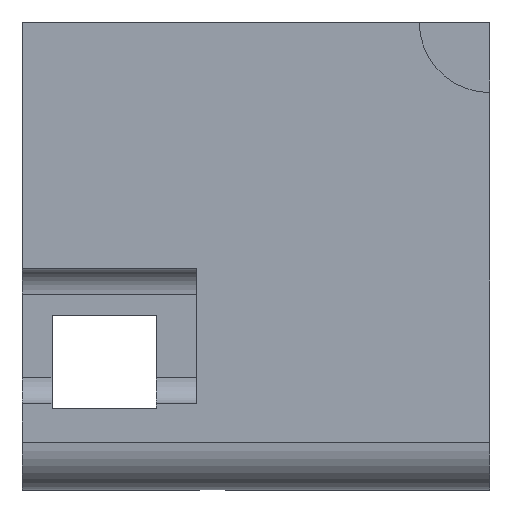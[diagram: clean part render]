
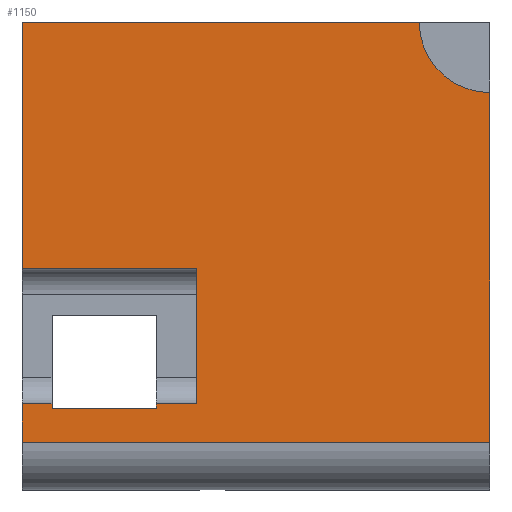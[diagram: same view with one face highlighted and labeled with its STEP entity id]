
A CAD part, top view. The second image highlights one B-rep face of the part: STEP entity #1150.
In plain terms, the highlighted planar face has unit normal (0, 0, 1).
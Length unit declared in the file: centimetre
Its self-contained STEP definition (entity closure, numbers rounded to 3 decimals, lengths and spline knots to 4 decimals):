
#6 = EDGE_CURVE ( 'NONE', #560, #8, #1548, .T. ) ;
#8 = VERTEX_POINT ( 'NONE', #27 ) ;
#10 = DIRECTION ( 'NONE',  ( 0., -1., 0. ) ) ;
#27 = CARTESIAN_POINT ( 'NONE',  ( 372.7676, 183.8458, 1000. ) ) ;
#28 = LINE ( 'NONE', #1264, #58 ) ;
#58 = VECTOR ( 'NONE', #1162, 100. ) ;
#67 = CARTESIAN_POINT ( 'NONE',  ( 0., 1000., 1000. ) ) ;
#85 = VECTOR ( 'NONE', #341, 100. ) ;
#124 = CARTESIAN_POINT ( 'NONE',  ( 0., 1000., 1000. ) ) ;
#244 = DIRECTION ( 'NONE',  ( 1., 0., 0. ) ) ;
#245 = CARTESIAN_POINT ( 'NONE',  ( 63.8506, 183.8458, 1000. ) ) ;
#276 = CARTESIAN_POINT ( 'NONE',  ( 287.1193, 173.8294, 1000. ) ) ;
#296 = CARTESIAN_POINT ( 'NONE',  ( 849.0896, 1000., 1000. ) ) ;
#324 = LINE ( 'NONE', #816, #996 ) ;
#327 = DIRECTION ( 'NONE',  ( 1., 0., 0. ) ) ;
#341 = DIRECTION ( 'NONE',  ( -1., 0., 0. ) ) ;
#348 = AXIS2_PLACEMENT_3D ( 'NONE', #454, #808, #327 ) ;
#355 = FACE_OUTER_BOUND ( 'NONE', #1486, .T. ) ;
#394 = CARTESIAN_POINT ( 'NONE',  ( 1000., 1000., 1000. ) ) ;
#398 = LINE ( 'NONE', #907, #723 ) ;
#401 = VECTOR ( 'NONE', #1502, 100. ) ;
#445 = CARTESIAN_POINT ( 'NONE',  ( 1000., 101.1814, 1000. ) ) ;
#454 = CARTESIAN_POINT ( 'NONE',  ( 1000., 1000., 1000. ) ) ;
#455 = ORIENTED_EDGE ( 'NONE', *, *, #665, .F. ) ;
#477 = CARTESIAN_POINT ( 'NONE',  ( 0., 0., 1000. ) ) ;
#479 = EDGE_CURVE ( 'NONE', #699, #1180, #1096, .T. ) ;
#506 = VECTOR ( 'NONE', #10, 100. ) ;
#531 = DIRECTION ( 'NONE',  ( 0., 1., 0. ) ) ;
#553 = VERTEX_POINT ( 'NONE', #1247 ) ;
#560 = VERTEX_POINT ( 'NONE', #1384 ) ;
#600 = ORIENTED_EDGE ( 'NONE', *, *, #703, .F. ) ;
#619 = DIRECTION ( 'NONE',  ( 0., 0., 1. ) ) ;
#651 = EDGE_CURVE ( 'NONE', #1169, #1180, #1034, .T. ) ;
#663 = EDGE_CURVE ( 'NONE', #982, #1338, #1536, .T. ) ;
#665 = EDGE_CURVE ( 'NONE', #553, #1233, #28, .T. ) ;
#668 = CARTESIAN_POINT ( 'NONE',  ( 1000., 101.1814, 1000. ) ) ;
#683 = EDGE_CURVE ( 'NONE', #8, #699, #1527, .T. ) ;
#699 = VERTEX_POINT ( 'NONE', #1541 ) ;
#703 = EDGE_CURVE ( 'NONE', #1233, #560, #398, .T. ) ;
#704 = ORIENTED_EDGE ( 'NONE', *, *, #1121, .F. ) ;
#723 = VECTOR ( 'NONE', #1414, 100. ) ;
#728 = EDGE_CURVE ( 'NONE', #1561, #1170, #908, .T. ) ;
#763 = PLANE ( 'NONE',  #1033 ) ;
#780 = DIRECTION ( 'NONE',  ( 1., 0., 0. ) ) ;
#808 = DIRECTION ( 'NONE',  ( 0., 0., 1. ) ) ;
#815 = EDGE_CURVE ( 'NONE', #982, #1001, #1345, .T. ) ;
#816 = CARTESIAN_POINT ( 'NONE',  ( 0., 1000., 1000. ) ) ;
#855 = LINE ( 'NONE', #1112, #401 ) ;
#907 = CARTESIAN_POINT ( 'NONE',  ( 287.1193, 173.8294, 1000. ) ) ;
#908 = CIRCLE ( 'NONE', #348, 150.9104 ) ;
#938 = ORIENTED_EDGE ( 'NONE', *, *, #683, .F. ) ;
#946 = CARTESIAN_POINT ( 'NONE',  ( 372.7676, 183.8458, 1000. ) ) ;
#982 = VERTEX_POINT ( 'NONE', #1078 ) ;
#996 = VECTOR ( 'NONE', #1464, 100. ) ;
#1001 = VERTEX_POINT ( 'NONE', #1048 ) ;
#1008 = LINE ( 'NONE', #394, #1369 ) ;
#1033 = AXIS2_PLACEMENT_3D ( 'NONE', #477, #619, #1510 ) ;
#1034 = LINE ( 'NONE', #1390, #506 ) ;
#1048 = CARTESIAN_POINT ( 'NONE',  ( 0., 101.1814, 1000. ) ) ;
#1052 = EDGE_CURVE ( 'NONE', #1001, #1449, #1195, .T. ) ;
#1066 = VECTOR ( 'NONE', #1474, 100. ) ;
#1078 = CARTESIAN_POINT ( 'NONE',  ( 0., 183.8458, 1000. ) ) ;
#1096 = LINE ( 'NONE', #1625, #85 ) ;
#1108 = ORIENTED_EDGE ( 'NONE', *, *, #1551, .T. ) ;
#1112 = CARTESIAN_POINT ( 'NONE',  ( 63.8506, 173.8294, 1000. ) ) ;
#1121 = EDGE_CURVE ( 'NONE', #1338, #553, #855, .T. ) ;
#1146 = VECTOR ( 'NONE', #244, 100. ) ;
#1150 = ADVANCED_FACE ( 'NONE', ( #355 ), #763, .T. ) ;
#1162 = DIRECTION ( 'NONE',  ( 1., 0., 0. ) ) ;
#1169 = VERTEX_POINT ( 'NONE', #124 ) ;
#1170 = VERTEX_POINT ( 'NONE', #1374 ) ;
#1172 = CARTESIAN_POINT ( 'NONE',  ( 372.7676, 183.8458, 1000. ) ) ;
#1180 = VERTEX_POINT ( 'NONE', #1387 ) ;
#1186 = DIRECTION ( 'NONE',  ( 1., 0., 0. ) ) ;
#1195 = LINE ( 'NONE', #668, #1226 ) ;
#1206 = VECTOR ( 'NONE', #1427, 100. ) ;
#1226 = VECTOR ( 'NONE', #1186, 100. ) ;
#1227 = ORIENTED_EDGE ( 'NONE', *, *, #6, .F. ) ;
#1233 = VERTEX_POINT ( 'NONE', #276 ) ;
#1247 = CARTESIAN_POINT ( 'NONE',  ( 63.8506, 173.8294, 1000. ) ) ;
#1249 = ORIENTED_EDGE ( 'NONE', *, *, #1052, .T. ) ;
#1264 = CARTESIAN_POINT ( 'NONE',  ( 63.8506, 173.8294, 1000. ) ) ;
#1305 = ORIENTED_EDGE ( 'NONE', *, *, #728, .F. ) ;
#1313 = ORIENTED_EDGE ( 'NONE', *, *, #1373, .T. ) ;
#1338 = VERTEX_POINT ( 'NONE', #245 ) ;
#1345 = LINE ( 'NONE', #67, #1066 ) ;
#1351 = ORIENTED_EDGE ( 'NONE', *, *, #651, .T. ) ;
#1369 = VECTOR ( 'NONE', #531, 100. ) ;
#1373 = EDGE_CURVE ( 'NONE', #1449, #1170, #1008, .T. ) ;
#1374 = CARTESIAN_POINT ( 'NONE',  ( 1000., 849.0896, 1000. ) ) ;
#1384 = CARTESIAN_POINT ( 'NONE',  ( 287.1193, 183.8458, 1000. ) ) ;
#1387 = CARTESIAN_POINT ( 'NONE',  ( 0., 473.5527, 1000. ) ) ;
#1390 = CARTESIAN_POINT ( 'NONE',  ( 0., 1000., 1000. ) ) ;
#1400 = CARTESIAN_POINT ( 'NONE',  ( 372.7676, 0., 1000. ) ) ;
#1414 = DIRECTION ( 'NONE',  ( 0., 1., 0. ) ) ;
#1427 = DIRECTION ( 'NONE',  ( 0., 1., 0. ) ) ;
#1449 = VERTEX_POINT ( 'NONE', #445 ) ;
#1459 = ORIENTED_EDGE ( 'NONE', *, *, #479, .F. ) ;
#1464 = DIRECTION ( 'NONE',  ( -1., 0., 0. ) ) ;
#1474 = DIRECTION ( 'NONE',  ( 0., -1., 0. ) ) ;
#1479 = VECTOR ( 'NONE', #780, 100. ) ;
#1486 = EDGE_LOOP ( 'NONE', ( #704, #1577, #1488, #1249, #1313, #1305, #1108, #1351, #1459, #938, #1227, #600, #455 ) ) ;
#1488 = ORIENTED_EDGE ( 'NONE', *, *, #815, .T. ) ;
#1502 = DIRECTION ( 'NONE',  ( 0., -1., 0. ) ) ;
#1510 = DIRECTION ( 'NONE',  ( 1., 0., 0. ) ) ;
#1527 = LINE ( 'NONE', #1400, #1206 ) ;
#1536 = LINE ( 'NONE', #1172, #1146 ) ;
#1541 = CARTESIAN_POINT ( 'NONE',  ( 372.7676, 473.5527, 1000. ) ) ;
#1548 = LINE ( 'NONE', #946, #1479 ) ;
#1551 = EDGE_CURVE ( 'NONE', #1561, #1169, #324, .T. ) ;
#1561 = VERTEX_POINT ( 'NONE', #296 ) ;
#1577 = ORIENTED_EDGE ( 'NONE', *, *, #663, .F. ) ;
#1625 = CARTESIAN_POINT ( 'NONE',  ( 372.7676, 473.5527, 1000. ) ) ;
